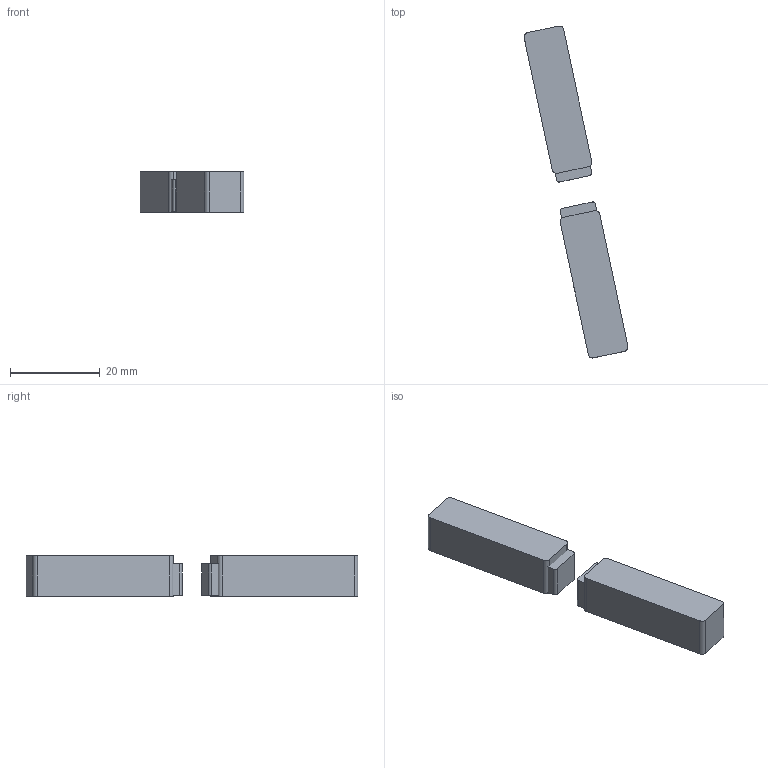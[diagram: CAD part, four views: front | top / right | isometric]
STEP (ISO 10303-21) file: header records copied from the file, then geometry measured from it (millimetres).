
FILE_DESCRIPTION(('Open CASCADE Model'),'2;1');
FILE_NAME('Open CASCADE Shape Model','2026-10-23T20:21:42',('Author'),( 'Open CASCADE'),'Open CASCADE STEP processor 7.8','Open CASCADE 7.8' ,'Unknown');
FILE_SCHEMA(('AUTOMOTIVE_DESIGN { 1 0 10303 214 1 1 1 1 }'));
Length unit declared in the file: millimetre
Products named in the file (5): USB_reference_keepouts; USB_L_plug; USB_L_cable_route; USB_R_plug; USB_R_cable_route
Assembly tree (4 placements, depth 2):
  USB_reference_keepouts
    USB_L_plug
    USB_L_cable_route
    USB_R_plug
    USB_R_cable_route
Bounding box: 23.12 x 73.89 x 9 mm (x, y, z)
Volume: 6284.2 mm3; surface area: 3402 mm2
Topology: 4 solids, 4 shells, 40 faces, 96 edges, 64 vertices
Faces by surface type: plane 24, cylinder 16
Entity records: 2585 total; most frequent: CARTESIAN_POINT 493, DIRECTION 394, LINE 224, VECTOR 224, ORIENTED_EDGE 192, PCURVE 192, DEFINITIONAL_REPRESENTATION 192, EDGE_CURVE 96
